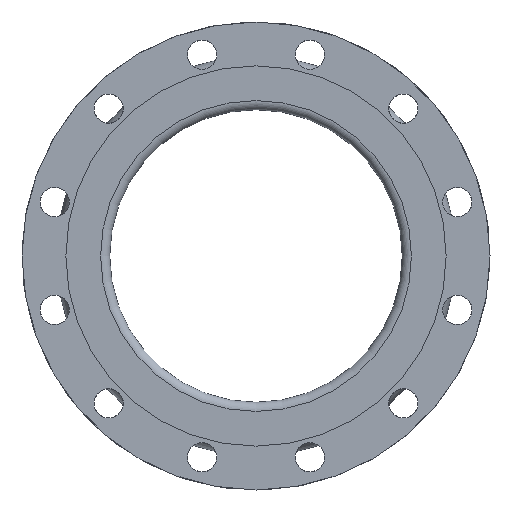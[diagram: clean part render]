
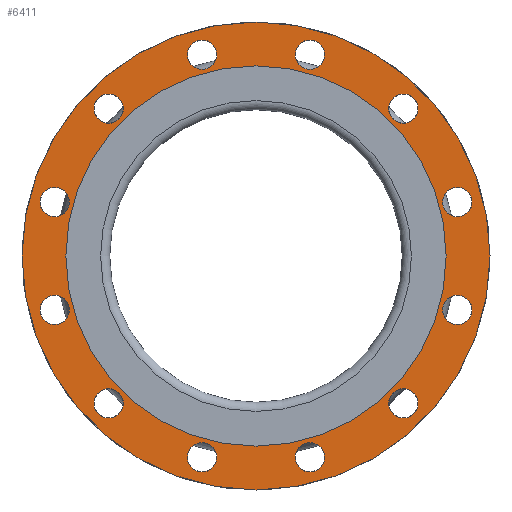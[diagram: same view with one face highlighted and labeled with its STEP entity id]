
A CAD part, left-side view. The second image highlights one B-rep face of the part: STEP entity #6411.
In plain terms, the highlighted planar face has unit normal (-1, 0, 0).
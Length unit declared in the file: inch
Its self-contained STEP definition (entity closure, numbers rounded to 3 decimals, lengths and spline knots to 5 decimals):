
#640=PLANE('',#6833);
#734=FACE_BOUND('',#1343,.T.);
#735=FACE_BOUND('',#1344,.T.);
#736=FACE_BOUND('',#1345,.T.);
#737=FACE_BOUND('',#1346,.T.);
#738=FACE_BOUND('',#1347,.T.);
#739=FACE_BOUND('',#1348,.T.);
#740=FACE_BOUND('',#1349,.T.);
#741=FACE_BOUND('',#1350,.T.);
#742=FACE_BOUND('',#1351,.T.);
#743=FACE_BOUND('',#1352,.T.);
#744=FACE_BOUND('',#1353,.T.);
#745=FACE_BOUND('',#1354,.T.);
#746=FACE_BOUND('',#1355,.T.);
#950=FACE_OUTER_BOUND('',#1342,.T.);
#1342=EDGE_LOOP('',(#4026));
#1343=EDGE_LOOP('',(#4027));
#1344=EDGE_LOOP('',(#4028));
#1345=EDGE_LOOP('',(#4029));
#1346=EDGE_LOOP('',(#4030));
#1347=EDGE_LOOP('',(#4031));
#1348=EDGE_LOOP('',(#4032));
#1349=EDGE_LOOP('',(#4033));
#1350=EDGE_LOOP('',(#4034));
#1351=EDGE_LOOP('',(#4035));
#1352=EDGE_LOOP('',(#4036));
#1353=EDGE_LOOP('',(#4037));
#1354=EDGE_LOOP('',(#4038));
#1355=EDGE_LOOP('',(#4039));
#1879=CIRCLE('',#6763,0.5);
#1881=CIRCLE('',#6766,0.5);
#1883=CIRCLE('',#6769,0.5);
#1885=CIRCLE('',#6772,0.5);
#1887=CIRCLE('',#6775,0.5);
#1889=CIRCLE('',#6778,0.5);
#1891=CIRCLE('',#6781,0.5);
#1893=CIRCLE('',#6784,0.5);
#1895=CIRCLE('',#6787,0.5);
#1897=CIRCLE('',#6790,0.5);
#1899=CIRCLE('',#6793,0.5);
#1901=CIRCLE('',#6796,0.5);
#1926=CIRCLE('',#6834,8.);
#1927=CIRCLE('',#6835,6.5);
#2459=VERTEX_POINT('',#9899);
#2461=VERTEX_POINT('',#9904);
#2463=VERTEX_POINT('',#9909);
#2465=VERTEX_POINT('',#9914);
#2467=VERTEX_POINT('',#9919);
#2469=VERTEX_POINT('',#9924);
#2471=VERTEX_POINT('',#9929);
#2473=VERTEX_POINT('',#9934);
#2475=VERTEX_POINT('',#9939);
#2477=VERTEX_POINT('',#9944);
#2479=VERTEX_POINT('',#9949);
#2481=VERTEX_POINT('',#9954);
#2506=VERTEX_POINT('',#10017);
#2507=VERTEX_POINT('',#10019);
#3095=EDGE_CURVE('',#2459,#2459,#1879,.T.);
#3097=EDGE_CURVE('',#2461,#2461,#1881,.T.);
#3099=EDGE_CURVE('',#2463,#2463,#1883,.T.);
#3101=EDGE_CURVE('',#2465,#2465,#1885,.T.);
#3103=EDGE_CURVE('',#2467,#2467,#1887,.T.);
#3105=EDGE_CURVE('',#2469,#2469,#1889,.T.);
#3107=EDGE_CURVE('',#2471,#2471,#1891,.T.);
#3109=EDGE_CURVE('',#2473,#2473,#1893,.T.);
#3111=EDGE_CURVE('',#2475,#2475,#1895,.T.);
#3113=EDGE_CURVE('',#2477,#2477,#1897,.T.);
#3115=EDGE_CURVE('',#2479,#2479,#1899,.T.);
#3117=EDGE_CURVE('',#2481,#2481,#1901,.T.);
#3142=EDGE_CURVE('',#2506,#2506,#1926,.T.);
#3143=EDGE_CURVE('',#2507,#2507,#1927,.T.);
#4026=ORIENTED_EDGE('',*,*,#3142,.F.);
#4027=ORIENTED_EDGE('',*,*,#3095,.T.);
#4028=ORIENTED_EDGE('',*,*,#3097,.T.);
#4029=ORIENTED_EDGE('',*,*,#3099,.T.);
#4030=ORIENTED_EDGE('',*,*,#3101,.T.);
#4031=ORIENTED_EDGE('',*,*,#3103,.T.);
#4032=ORIENTED_EDGE('',*,*,#3105,.T.);
#4033=ORIENTED_EDGE('',*,*,#3107,.T.);
#4034=ORIENTED_EDGE('',*,*,#3109,.T.);
#4035=ORIENTED_EDGE('',*,*,#3111,.T.);
#4036=ORIENTED_EDGE('',*,*,#3113,.T.);
#4037=ORIENTED_EDGE('',*,*,#3115,.T.);
#4038=ORIENTED_EDGE('',*,*,#3117,.T.);
#4039=ORIENTED_EDGE('',*,*,#3143,.T.);
#6411=ADVANCED_FACE('',(#950,#734,#735,#736,#737,#738,#739,#740,#741,#742,
#743,#744,#745,#746),#640,.T.);
#6763=AXIS2_PLACEMENT_3D('',#9900,#7715,#7716);
#6766=AXIS2_PLACEMENT_3D('',#9905,#7721,#7722);
#6769=AXIS2_PLACEMENT_3D('',#9910,#7727,#7728);
#6772=AXIS2_PLACEMENT_3D('',#9915,#7733,#7734);
#6775=AXIS2_PLACEMENT_3D('',#9920,#7739,#7740);
#6778=AXIS2_PLACEMENT_3D('',#9925,#7745,#7746);
#6781=AXIS2_PLACEMENT_3D('',#9930,#7751,#7752);
#6784=AXIS2_PLACEMENT_3D('',#9935,#7757,#7758);
#6787=AXIS2_PLACEMENT_3D('',#9940,#7763,#7764);
#6790=AXIS2_PLACEMENT_3D('',#9945,#7769,#7770);
#6793=AXIS2_PLACEMENT_3D('',#9950,#7775,#7776);
#6796=AXIS2_PLACEMENT_3D('',#9955,#7781,#7782);
#6833=AXIS2_PLACEMENT_3D('',#10016,#7855,#7856);
#6834=AXIS2_PLACEMENT_3D('',#10018,#7857,#7858);
#6835=AXIS2_PLACEMENT_3D('',#10020,#7859,#7860);
#7715=DIRECTION('center_axis',(1.,0.,0.));
#7716=DIRECTION('ref_axis',(0.,-0.5,-0.866));
#7721=DIRECTION('center_axis',(1.,0.,0.));
#7722=DIRECTION('ref_axis',(0.,-0.866,-0.5));
#7727=DIRECTION('center_axis',(1.,0.,0.));
#7728=DIRECTION('ref_axis',(0.,-1.,0.));
#7733=DIRECTION('center_axis',(1.,0.,0.));
#7734=DIRECTION('ref_axis',(0.,-0.866,0.5));
#7739=DIRECTION('center_axis',(1.,0.,0.));
#7740=DIRECTION('ref_axis',(0.,-0.5,0.866));
#7745=DIRECTION('center_axis',(1.,0.,0.));
#7746=DIRECTION('ref_axis',(0.,0.,1.));
#7751=DIRECTION('center_axis',(1.,0.,0.));
#7752=DIRECTION('ref_axis',(0.,0.5,0.866));
#7757=DIRECTION('center_axis',(1.,0.,0.));
#7758=DIRECTION('ref_axis',(0.,0.866,0.5));
#7763=DIRECTION('center_axis',(1.,0.,0.));
#7764=DIRECTION('ref_axis',(0.,1.,0.));
#7769=DIRECTION('center_axis',(1.,0.,0.));
#7770=DIRECTION('ref_axis',(0.,0.866,-0.5));
#7775=DIRECTION('center_axis',(1.,0.,0.));
#7776=DIRECTION('ref_axis',(0.,0.5,-0.866));
#7781=DIRECTION('center_axis',(1.,0.,0.));
#7782=DIRECTION('ref_axis',(0.,0.,-1.));
#7855=DIRECTION('center_axis',(-1.,0.,0.));
#7856=DIRECTION('ref_axis',(0.,0.,1.));
#7857=DIRECTION('center_axis',(1.,0.,0.));
#7858=DIRECTION('ref_axis',(0.,0.,-1.));
#7859=DIRECTION('center_axis',(1.,0.,0.));
#7860=DIRECTION('ref_axis',(0.,0.,-1.));
#9899=CARTESIAN_POINT('',(-6.,5.28814,-4.60512));
#9900=CARTESIAN_POINT('Origin',(-6.,5.03814,-5.03814));
#9904=CARTESIAN_POINT('',(-6.,2.2771,-6.63222));
#9905=CARTESIAN_POINT('Origin',(-6.,1.84409,-6.88222));
#9909=CARTESIAN_POINT('',(-6.,-1.34409,-6.88222));
#9910=CARTESIAN_POINT('Origin',(-6.,-1.84409,-6.88222));
#9914=CARTESIAN_POINT('',(-6.,-4.60512,-5.28814));
#9915=CARTESIAN_POINT('Origin',(-6.,-5.03814,-5.03814));
#9919=CARTESIAN_POINT('',(-6.,-6.63222,-2.2771));
#9920=CARTESIAN_POINT('Origin',(-6.,-6.88222,-1.84409));
#9924=CARTESIAN_POINT('',(-6.,-6.88222,1.34409));
#9925=CARTESIAN_POINT('Origin',(-6.,-6.88222,1.84409));
#9929=CARTESIAN_POINT('',(-6.,-5.28814,4.60512));
#9930=CARTESIAN_POINT('Origin',(-6.,-5.03814,5.03814));
#9934=CARTESIAN_POINT('',(-6.,-2.2771,6.63222));
#9935=CARTESIAN_POINT('Origin',(-6.,-1.84409,6.88222));
#9939=CARTESIAN_POINT('',(-6.,1.34409,6.88222));
#9940=CARTESIAN_POINT('Origin',(-6.,1.84409,6.88222));
#9944=CARTESIAN_POINT('',(-6.,4.60512,5.28814));
#9945=CARTESIAN_POINT('Origin',(-6.,5.03814,5.03814));
#9949=CARTESIAN_POINT('',(-6.,6.63222,2.2771));
#9950=CARTESIAN_POINT('Origin',(-6.,6.88222,1.84409));
#9954=CARTESIAN_POINT('',(-6.,6.88222,-1.34409));
#9955=CARTESIAN_POINT('Origin',(-6.,6.88222,-1.84409));
#10016=CARTESIAN_POINT('Origin',(-6.,8.,0.));
#10017=CARTESIAN_POINT('',(-6.,8.,0.));
#10018=CARTESIAN_POINT('Origin',(-6.,0.,0.));
#10019=CARTESIAN_POINT('',(-6.,6.5,0.));
#10020=CARTESIAN_POINT('Origin',(-6.,0.,0.));
